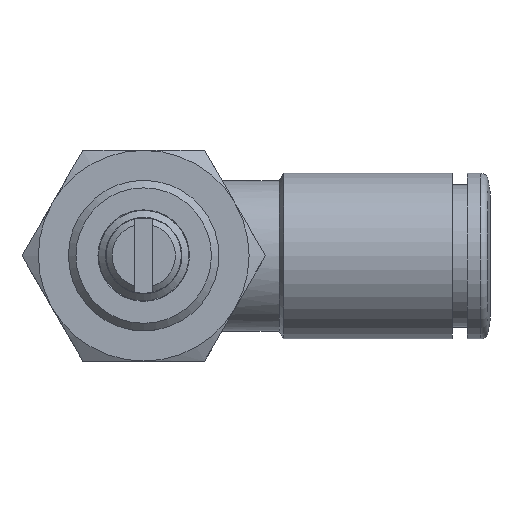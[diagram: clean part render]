
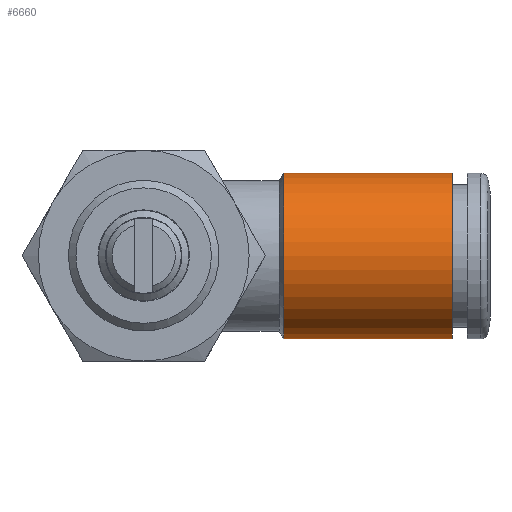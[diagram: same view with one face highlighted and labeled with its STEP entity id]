
A CAD part, top view. The second image highlights one B-rep face of the part: STEP entity #6660.
In plain terms, the highlighted cylindrical face has radius 5.5 mm (diameter 11 mm), a full revolution.
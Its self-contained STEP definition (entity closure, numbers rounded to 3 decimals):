
#6660=ADVANCED_FACE('', (#6670,#6680), #6690, .T.);
#19970=AXIS2_PLACEMENT_3D('Ax2Pl3d', #19980, #19990, #20000);
#20690=AXIS2_PLACEMENT_3D('Ax2Pl3d', #20700, #20710, #20720);
#20730=AXIS2_PLACEMENT_3D('Ax2Pl3d', #20740, #20750, #20760);
#19980=CARTESIAN_POINT('HicPkt', (33.525,12.153,
15.112));
#88750=CARTESIAN_POINT('', (33.525,12.153,9.612));
#20700=CARTESIAN_POINT('HicPkt', (22.314,12.153,
15.112));
#88840=CARTESIAN_POINT('', (22.314,12.153,9.612));
#20740=CARTESIAN_POINT('HicPkt', (33.525,12.153,
15.112));
#90300=CIRCLE('Circle', #19970, 5.5);
#90380=CIRCLE('Circle', #20690, 5.5);
#6690=CYLINDRICAL_SURFACE('Zyl', #20730, 5.5);
#19990=DIRECTION('Axis', (1.,0.,0.));
#20000=DIRECTION('RefDirection', (0.,-0.,-1.));
#20710=DIRECTION('Axis', (1.,0.,0.));
#20720=DIRECTION('RefDirection', (0.,-0.,-1.));
#20750=DIRECTION('Axis', (-1.,0.,0.)
);
#20760=DIRECTION('RefDirection', (0.,
0.,-1.));
#101760=EDGE_CURVE('', #101770, #101770, #90300, .T.);
#101950=EDGE_CURVE('', #101960, #101960, #90380, .T.);
#109250=EDGE_LOOP('Edge_loop', (#109260));
#109270=EDGE_LOOP('Edge_loop', (#109280));
#6680=FACE_BOUND('', #109270, .T.);
#6670=FACE_OUTER_BOUND('Face_outer_bound', #109250, .T.);
#109260=ORIENTED_EDGE('', *, *, #101950, .T.);
#109280=ORIENTED_EDGE('', *, *, #101760, .F.);
#101770=VERTEX_POINT('', #88750);
#101960=VERTEX_POINT('', #88840);
